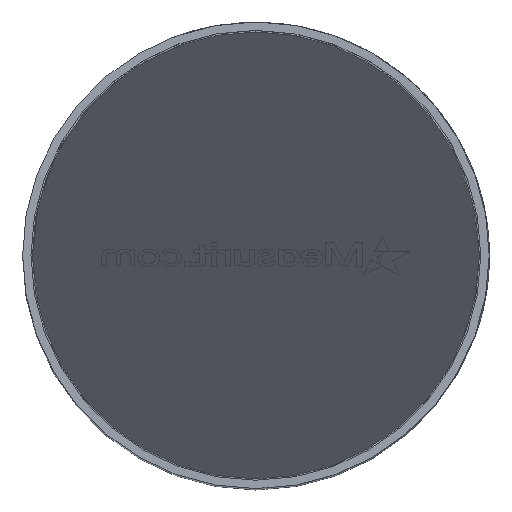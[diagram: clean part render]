
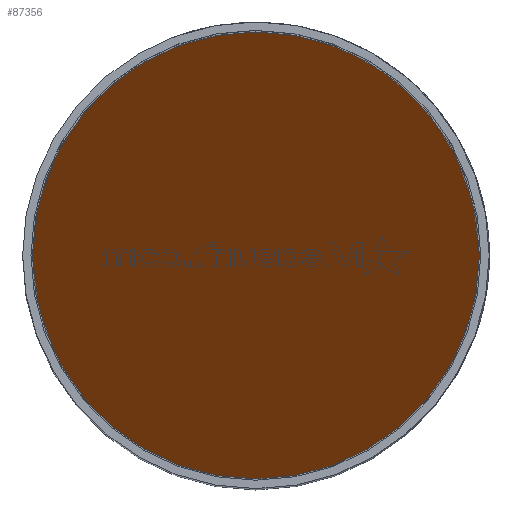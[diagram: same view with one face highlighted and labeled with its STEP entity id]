
A CAD part, top view. The second image highlights one B-rep face of the part: STEP entity #87356.
In plain terms, the highlighted planar face has unit normal (0, -0.707, 0.707).
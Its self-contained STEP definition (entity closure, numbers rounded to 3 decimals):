
#5003 = VERTEX_POINT ( 'NONE', #48246 ) ;
#5242 = AXIS2_PLACEMENT_3D ( 'NONE', #69086, #33361, #64815 ) ;
#5402 = ORIENTED_EDGE ( 'NONE', *, *, #8924, .T. ) ;
#8924 = EDGE_CURVE ( 'NONE', #5003, #83630, #86867, .T. ) ;
#22125 = CARTESIAN_POINT ( 'NONE',  ( 479., -958., -95.172 ) ) ;
#29419 = CARTESIAN_POINT ( 'NONE',  ( 479., 0., 862.828 ) ) ;
#33361 = DIRECTION ( 'NONE',  ( 0., 0.707, -0.707 ) ) ;
#36345 = CARTESIAN_POINT ( 'NONE',  ( 479., 0., 862.828 ) ) ;
#36977 = CARTESIAN_POINT ( 'NONE',  ( -479., 958., 1820.828 ) ) ;
#37239 = CARTESIAN_POINT ( 'NONE',  ( -479., 0., 862.828 ) ) ;
#39899 = CARTESIAN_POINT ( 'NONE',  ( -479., 0., 862.828 ) ) ;
#40412 = PLANE ( 'NONE',  #5242 ) ;
#47457 = FACE_OUTER_BOUND ( 'NONE', #54569, .T. ) ;
#48246 = CARTESIAN_POINT ( 'NONE',  ( 479., 0., 862.828 ) ) ;
#54569 = EDGE_LOOP ( 'NONE', ( #60015, #5402 ) ) ;
#58085 = CARTESIAN_POINT ( 'NONE',  ( 479., 958., 1820.828 ) ) ;
#60002 =( BOUNDED_CURVE ( )  B_SPLINE_CURVE ( 3, ( #37239, #80103, #22125, #36345 ),
 .UNSPECIFIED., .F., .T. ) 
 B_SPLINE_CURVE_WITH_KNOTS ( ( 4, 4 ),
 ( 4.712, 7.854 ),
 .UNSPECIFIED. ) 
 CURVE ( )  GEOMETRIC_REPRESENTATION_ITEM ( )  RATIONAL_B_SPLINE_CURVE ( ( 1., 0.333, 0.333, 1. ) ) 
 REPRESENTATION_ITEM ( '' )  );
#60015 = ORIENTED_EDGE ( 'NONE', *, *, #61830, .T. ) ;
#61830 = EDGE_CURVE ( 'NONE', #83630, #5003, #60002, .T. ) ;
#64815 = DIRECTION ( 'NONE',  ( 0., 0.707, 0.707 ) ) ;
#69086 = CARTESIAN_POINT ( 'NONE',  ( 1484.813, -431.414, 431.414 ) ) ;
#80103 = CARTESIAN_POINT ( 'NONE',  ( -479., -958., -95.172 ) ) ;
#83630 = VERTEX_POINT ( 'NONE', #39899 ) ;
#86867 =( BOUNDED_CURVE ( )  B_SPLINE_CURVE ( 3, ( #29419, #58085, #36977, #86887 ),
 .UNSPECIFIED., .F., .T. ) 
 B_SPLINE_CURVE_WITH_KNOTS ( ( 4, 4 ),
 ( 1.571, 4.712 ),
 .UNSPECIFIED. ) 
 CURVE ( )  GEOMETRIC_REPRESENTATION_ITEM ( )  RATIONAL_B_SPLINE_CURVE ( ( 1., 0.333, 0.333, 1. ) ) 
 REPRESENTATION_ITEM ( '' )  );
#86887 = CARTESIAN_POINT ( 'NONE',  ( -479., 0., 862.828 ) ) ;
#87356 = ADVANCED_FACE ( 'NONE', ( #47457 ), #40412, .F. ) ;
